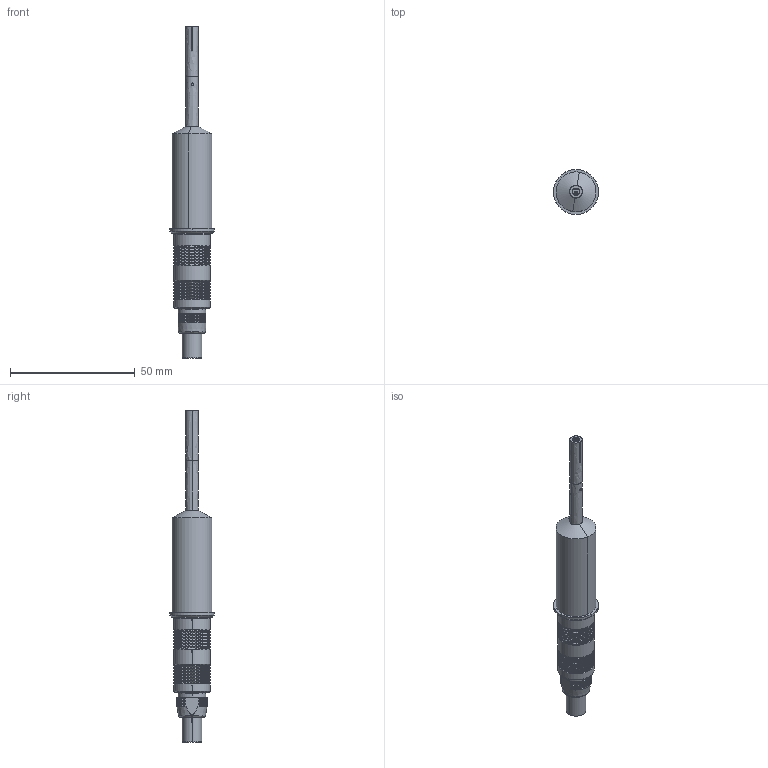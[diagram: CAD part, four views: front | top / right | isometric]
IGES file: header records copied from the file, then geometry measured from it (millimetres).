
Start section: SolidWorks IGES file using analytic representation for surfaces
Global section: file name: C:\SolidWorks Data (2)\Winker Foser\RISO5 Zeichnungen\RISO5_mittel_Stecker_gerade.IGS; native system: SolidWorks 2010; preprocessor: SolidWorks 2010; author: m; date: 110221.020203; units: millimetre
Bounding box: 18 x 18 x 133 mm (x, y, z)
Surface area: 5696.7 mm2 (no closed solid volume)
Topology: 0 solids, 0 shells, 7065 faces, 30293 edges, 30291 vertices
Faces by surface type: bspline 4376, revolution 2689
